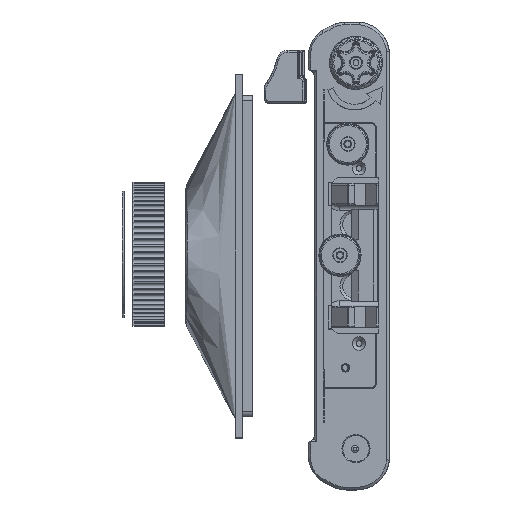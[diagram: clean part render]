
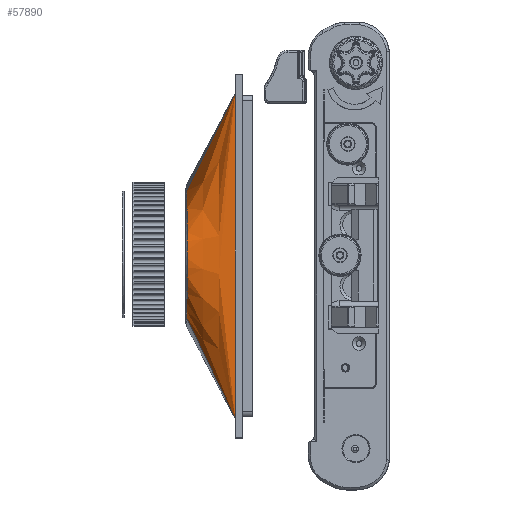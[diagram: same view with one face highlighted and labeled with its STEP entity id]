
A CAD part, top view. The second image highlights one B-rep face of the part: STEP entity #57890.
In plain terms, the highlighted free-form (B-spline) face has degree [3, 3] with [10, 4] control points.
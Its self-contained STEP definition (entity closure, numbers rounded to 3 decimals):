
#6377=FACE_OUTER_BOUND($,#9952,.T.);
#9952=EDGE_LOOP($,(#39825,#39826,#39827,#39828));
#13914=B_SPLINE_CURVE_WITH_KNOTS($,3,(#83105,#83106,#83107,#83108,#83109,
#83110,#83111,#83112,#83113,#83114,#83115,#83116),.UNSPECIFIED.,.F.,.F.,
(4,1,1,1,1,1,1,1,1,4),(2.082,2.306,2.503,
2.7,3.093,3.29,3.487,3.683,
3.88,4.274),.UNSPECIFIED.);
#15091=LINE($,#83290,#20195);
#15092=LINE($,#83292,#20196);
#15093=LINE($,#83293,#20197);
#20195=VECTOR($,#67019,6.724);
#20196=VECTOR($,#67020,18.544);
#20197=VECTOR($,#67021,6.655);
#25299=VERTEX_POINT($,#82997);
#25301=VERTEX_POINT($,#83089);
#25305=VERTEX_POINT($,#83289);
#25306=VERTEX_POINT($,#83291);
#30920=EDGE_CURVE($,#25299,#25301,#13914,.T.);
#30926=EDGE_CURVE($,#25305,#25299,#15091,.T.);
#30927=EDGE_CURVE($,#25306,#25305,#15092,.F.);
#30928=EDGE_CURVE($,#25306,#25301,#15093,.T.);
#39825=ORIENTED_EDGE($,*,*,#30920,.F.);
#39826=ORIENTED_EDGE($,*,*,#30926,.F.);
#39827=ORIENTED_EDGE($,*,*,#30927,.F.);
#39828=ORIENTED_EDGE($,*,*,#30928,.T.);
#57603=B_SPLINE_SURFACE_WITH_KNOTS($,3,3,((#83249,#83250,#83251,#83252),
(#83253,#83254,#83255,#83256),(#83257,#83258,#83259,#83260),(#83261,#83262,
#83263,#83264),(#83265,#83266,#83267,#83268),(#83269,#83270,#83271,#83272),
(#83273,#83274,#83275,#83276),(#83277,#83278,#83279,#83280),(#83281,#83282,
#83283,#83284),(#83285,#83286,#83287,#83288)),.UNSPECIFIED.,.F.,.F.,.F.,
(4,1,1,1,1,1,1,4),(4,4),(0.,0.143,0.286,0.429,
0.571,0.714,0.857,1.),(0.,0.985),
 .UNSPECIFIED.);
#57890=ADVANCED_FACE($,(#6377),#57603,.F.);
#67019=DIRECTION($,(-0.413,0.858,-0.304));
#67020=DIRECTION($,(0.,1.,0.));
#67021=DIRECTION($,(-0.417,-0.84,-0.347));
#82997=CARTESIAN_POINT('',(-16.692,13.394,7.872));
#83089=CARTESIAN_POINT('',(-16.692,20.576,7.61));
#83105=CARTESIAN_POINT('Ctrl Pts',(-16.692,13.394,7.872));
#83106=CARTESIAN_POINT('Ctrl Pts',(-16.689,13.543,8.134));
#83107=CARTESIAN_POINT('Ctrl Pts',(-16.68,13.879,8.594));
#83108=CARTESIAN_POINT('Ctrl Pts',(-16.661,14.506,9.143));
#83109=CARTESIAN_POINT('Ctrl Pts',(-16.636,15.431,9.656));
#83110=CARTESIAN_POINT('Ctrl Pts',(-16.634,16.467,9.877));
#83111=CARTESIAN_POINT('Ctrl Pts',(-16.634,17.505,9.829));
#83112=CARTESIAN_POINT('Ctrl Pts',(-16.635,18.268,9.656));
#83113=CARTESIAN_POINT('Ctrl Pts',(-16.646,18.993,9.345));
#83114=CARTESIAN_POINT('Ctrl Pts',(-16.672,19.861,8.737));
#83115=CARTESIAN_POINT('Ctrl Pts',(-16.686,20.348,8.089));
#83116=CARTESIAN_POINT('Ctrl Pts',(-16.692,20.576,7.61));
#83249=CARTESIAN_POINT('Ctrl Pts',(-13.916,26.166,9.919));
#83250=CARTESIAN_POINT('Ctrl Pts',(-14.841,24.303,9.15));
#83251=CARTESIAN_POINT('Ctrl Pts',(-15.767,22.439,8.38));
#83252=CARTESIAN_POINT('Ctrl Pts',(-16.692,20.576,7.61));
#83253=CARTESIAN_POINT('Ctrl Pts',(-13.916,25.283,9.919));
#83254=CARTESIAN_POINT('Ctrl Pts',(-14.841,23.652,9.272));
#83255=CARTESIAN_POINT('Ctrl Pts',(-15.767,22.021,8.624));
#83256=CARTESIAN_POINT('Ctrl Pts',(-16.692,20.39,7.976));
#83257=CARTESIAN_POINT('Ctrl Pts',(-13.916,23.517,9.919));
#83258=CARTESIAN_POINT('Ctrl Pts',(-14.841,22.312,9.498));
#83259=CARTESIAN_POINT('Ctrl Pts',(-15.767,21.108,9.077));
#83260=CARTESIAN_POINT('Ctrl Pts',(-16.692,19.904,8.655));
#83261=CARTESIAN_POINT('Ctrl Pts',(-13.916,20.868,9.919));
#83262=CARTESIAN_POINT('Ctrl Pts',(-14.841,20.21,9.75));
#83263=CARTESIAN_POINT('Ctrl Pts',(-15.767,19.552,9.581));
#83264=CARTESIAN_POINT('Ctrl Pts',(-16.692,18.895,9.412));
#83265=CARTESIAN_POINT('Ctrl Pts',(-13.916,18.219,9.919));
#83266=CARTESIAN_POINT('Ctrl Pts',(-14.841,18.046,9.891));
#83267=CARTESIAN_POINT('Ctrl Pts',(-15.767,17.873,9.862));
#83268=CARTESIAN_POINT('Ctrl Pts',(-16.692,17.7,9.834));
#83269=CARTESIAN_POINT('Ctrl Pts',(-13.916,15.569,9.919));
#83270=CARTESIAN_POINT('Ctrl Pts',(-14.841,15.857,9.906));
#83271=CARTESIAN_POINT('Ctrl Pts',(-15.767,16.144,9.894));
#83272=CARTESIAN_POINT('Ctrl Pts',(-16.692,16.431,9.881));
#83273=CARTESIAN_POINT('Ctrl Pts',(-13.916,12.92,9.919));
#83274=CARTESIAN_POINT('Ctrl Pts',(-14.841,13.683,9.795));
#83275=CARTESIAN_POINT('Ctrl Pts',(-15.767,14.445,9.671));
#83276=CARTESIAN_POINT('Ctrl Pts',(-16.692,15.208,9.547));
#83277=CARTESIAN_POINT('Ctrl Pts',(-13.916,10.271,9.919));
#83278=CARTESIAN_POINT('Ctrl Pts',(-14.841,11.562,9.568));
#83279=CARTESIAN_POINT('Ctrl Pts',(-15.767,12.853,9.217));
#83280=CARTESIAN_POINT('Ctrl Pts',(-16.692,14.144,8.866));
#83281=CARTESIAN_POINT('Ctrl Pts',(-13.916,8.505,9.919));
#83282=CARTESIAN_POINT('Ctrl Pts',(-14.841,10.206,9.354));
#83283=CARTESIAN_POINT('Ctrl Pts',(-15.767,11.907,8.789));
#83284=CARTESIAN_POINT('Ctrl Pts',(-16.692,13.607,8.224));
#83285=CARTESIAN_POINT('Ctrl Pts',(-13.916,7.622,9.919));
#83286=CARTESIAN_POINT('Ctrl Pts',(-14.841,9.546,9.237));
#83287=CARTESIAN_POINT('Ctrl Pts',(-15.767,11.47,8.554));
#83288=CARTESIAN_POINT('Ctrl Pts',(-16.692,13.394,7.872));
#83289=CARTESIAN_POINT('',(-13.916,7.622,9.919));
#83290=CARTESIAN_POINT($,(-13.916,7.622,9.919));
#83291=CARTESIAN_POINT('',(-13.916,26.166,9.919));
#83292=CARTESIAN_POINT($,(-13.916,16.894,9.919));
#83293=CARTESIAN_POINT($,(-13.916,26.166,9.919));
